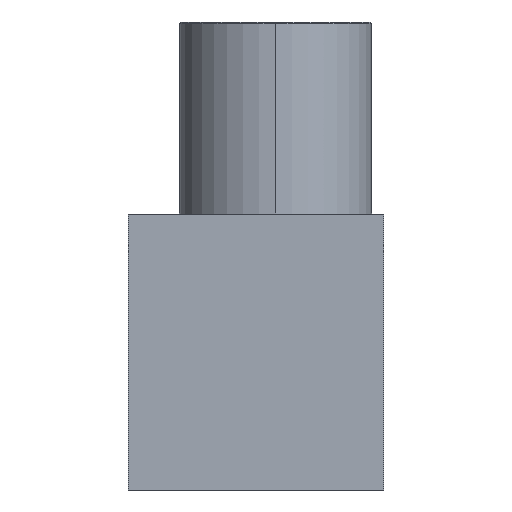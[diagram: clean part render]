
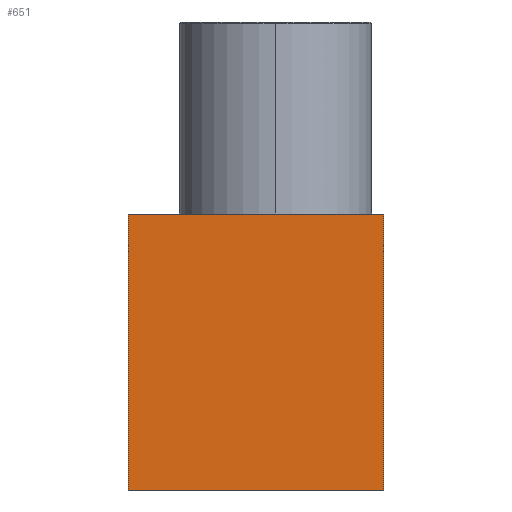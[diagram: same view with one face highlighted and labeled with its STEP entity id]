
A CAD part, left-side view. The second image highlights one B-rep face of the part: STEP entity #651.
In plain terms, the highlighted planar face has unit normal (-1, 0, 0).
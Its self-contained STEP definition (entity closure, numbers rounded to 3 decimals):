
#1=DIRECTION('',(0.,0.,-1.));
#2=VECTOR('',#1,46.);
#3=CARTESIAN_POINT('',(-53.,0.,23.));
#4=LINE('',#3,#2);
#57=DIRECTION('',(0.,1.,0.));
#58=VECTOR('',#57,42.5);
#59=CARTESIAN_POINT('',(-53.,-42.5,-23.));
#60=LINE('',#59,#58);
#61=DIRECTION('',(0.,1.,0.));
#62=VECTOR('',#61,42.5);
#63=CARTESIAN_POINT('',(-53.,-42.5,23.));
#64=LINE('',#63,#62);
#351=DIRECTION('',(0.,0.,-1.));
#352=VECTOR('',#351,46.);
#353=CARTESIAN_POINT('',(-53.,-42.5,23.));
#354=LINE('',#353,#352);
#469=CARTESIAN_POINT('',(-53.,0.,23.));
#470=CARTESIAN_POINT('',(-53.,0.,-23.));
#471=VERTEX_POINT('',#469);
#472=VERTEX_POINT('',#470);
#477=CARTESIAN_POINT('',(-53.,-42.5,23.));
#478=CARTESIAN_POINT('',(-53.,-42.5,-23.));
#479=VERTEX_POINT('',#477);
#480=VERTEX_POINT('',#478);
#637=CARTESIAN_POINT('',(-53.,0.,-23.));
#638=DIRECTION('',(-1.,0.,0.));
#639=DIRECTION('',(0.,0.,1.));
#640=AXIS2_PLACEMENT_3D('',#637,#638,#639);
#641=PLANE('',#640);
#642=ORIENTED_EDGE('',*,*,#602,.F.);
#644=ORIENTED_EDGE('',*,*,#643,.F.);
#646=ORIENTED_EDGE('',*,*,#645,.T.);
#648=ORIENTED_EDGE('',*,*,#647,.T.);
#649=EDGE_LOOP('',(#642,#644,#646,#648));
#650=FACE_OUTER_BOUND('',#649,.F.);
#651=ADVANCED_FACE('',(#650),#641,.T.);
#602=EDGE_CURVE('',#471,#472,#4,.T.);
#643=EDGE_CURVE('',#479,#471,#64,.T.);
#645=EDGE_CURVE('',#479,#480,#354,.T.);
#647=EDGE_CURVE('',#480,#472,#60,.T.);
